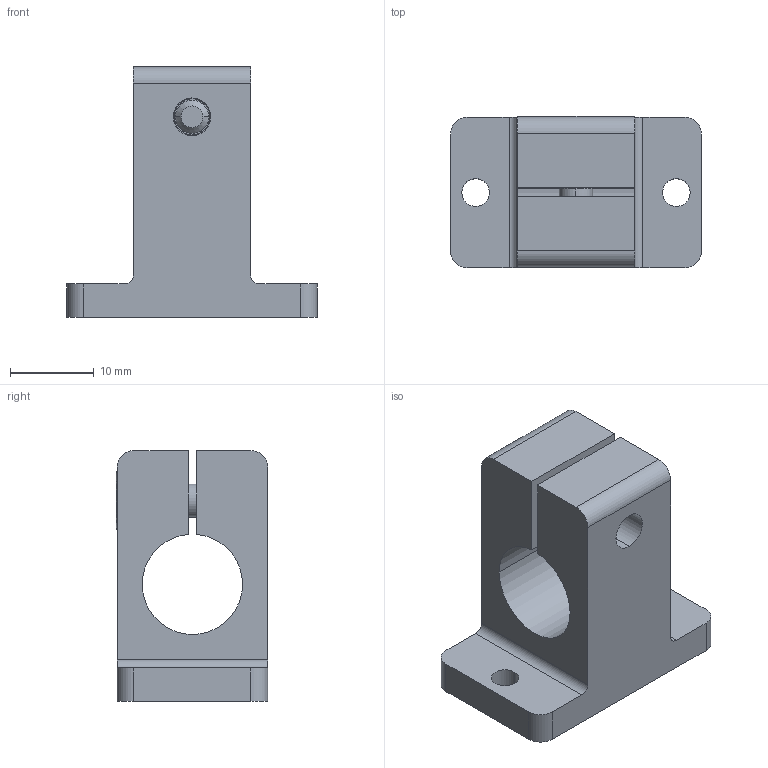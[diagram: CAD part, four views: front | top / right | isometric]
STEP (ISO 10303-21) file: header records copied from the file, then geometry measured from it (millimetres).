
FILE_DESCRIPTION (( 'STEP AP214' ), '1' );
FILE_NAME ('SMBT5-12.STEP', '2019-11-06T07:14:33', ( '微软用户' ), ( '微软中国' ), 'SwSTEP 2.0', 'SolidWorks 2016', '' );
FILE_SCHEMA (( 'AUTOMOTIVE_DESIGN' ));
Length unit declared in the file: millimetre
Products named in the file (1): SMBT5-12
Bounding box: 30 x 18.1 x 30 mm (x, y, z)
Volume: 6733.5 mm3; surface area: 4262 mm2
Topology: 3 solids, 3 shells, 249 faces, 717 edges, 474 vertices
Faces by surface type: plane 216, cylinder 29, cone 2, bspline 2
Entity records: 11137 total; most frequent: CARTESIAN_POINT 1565, DIRECTION 1455, ORIENTED_EDGE 1434, EDGE_CURVE 717, AXIS2_PLACEMENT_3D 494, VERTEX_POINT 474, LINE 467, VECTOR 467
